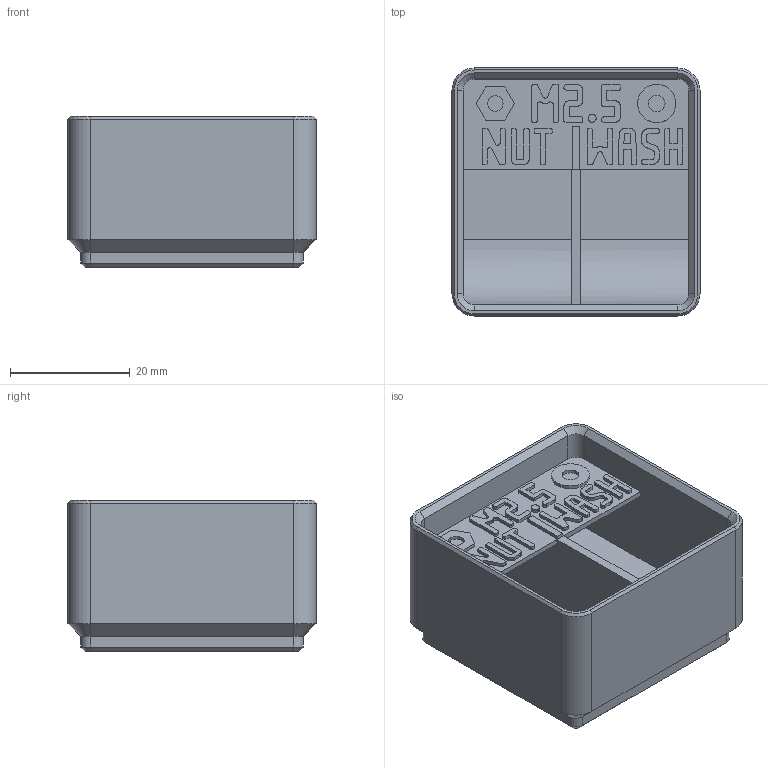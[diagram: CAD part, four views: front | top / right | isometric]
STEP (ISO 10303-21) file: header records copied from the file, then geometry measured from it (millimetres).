
FILE_DESCRIPTION(('Open CASCADE Model'),'2;1');
FILE_NAME('Open CASCADE Shape Model','2026-11-03T16:31:22',('Author'),( 'Open CASCADE'),'Open CASCADE STEP processor 8.0','build123d', 'Unknown');
FILE_SCHEMA(('AUTOMOTIVE_DESIGN { 1 0 10303 214 1 1 1 1 }'));
Products named in the file (1): COMPOUND
Bounding box: 41.5 x 41.5 x 25.4 mm (x, y, z)
Volume: 20573.8 mm3; surface area: 11055.9 mm2
Topology: 1 solids, 1 shells, 1143 faces, 3329 edges, 2206 vertices
Faces by surface type: plane 1110, cylinder 17, cone 16
Full cylindrical faces by diameter (mm): 2.6 x1, 2.8 x1, 6.4 x1
Entity records: 78303 total; most frequent: CARTESIAN_POINT 15907, DIRECTION 10074, LINE 7685, VECTOR 7685, ORIENTED_EDGE 6658, PCURVE 6658, DEFINITIONAL_REPRESENTATION 6658, EDGE_CURVE 3329
